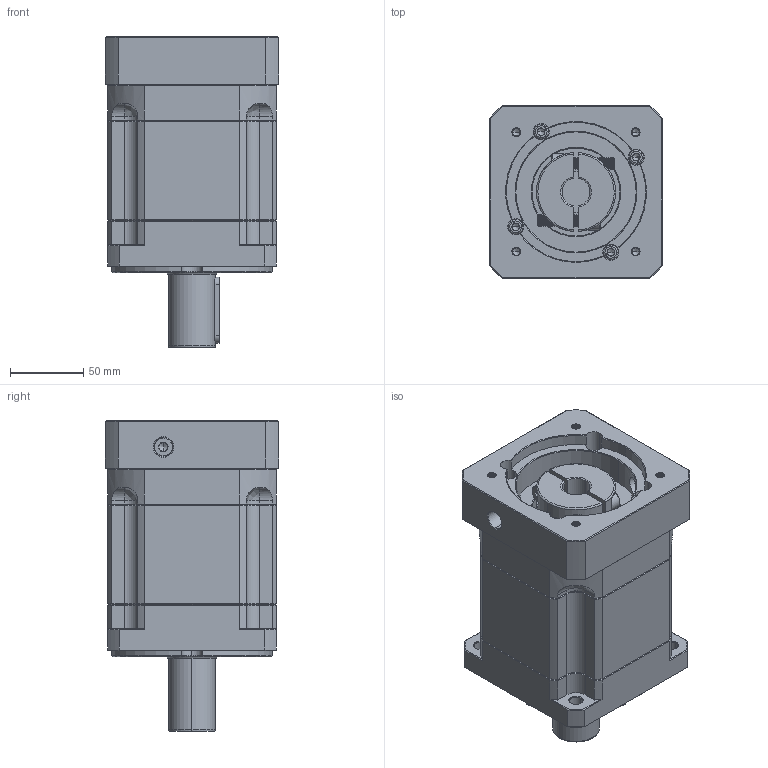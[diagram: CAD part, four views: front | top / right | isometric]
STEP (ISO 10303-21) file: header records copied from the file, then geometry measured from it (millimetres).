
FILE_DESCRIPTION (( 'STEP AP214' ), '1' );
FILE_NAME ('ZB115A-D32-L2-P2-19-95-115-M6.step', '2023-08-26T06:30:01', ( '' ), ( '' ), 'SwSTEP 2.0', 'SolidWorks 2016', '' );
FILE_SCHEMA (( 'AUTOMOTIVE_DESIGN' ));
Length unit declared in the file: millimetre
Products named in the file (1): ZB115A-D32-L2-P2-19-95-115-M6
Bounding box: 118 x 118 x 212 mm (x, y, z)
Volume: 1811544 mm3; surface area: 179022.7 mm2
Topology: 6 solids, 6 shells, 2383 faces, 6286 edges, 3999 vertices
Faces by surface type: plane 1144, bspline 443, cylinder 412, cone 384
Entity records: 126721 total; most frequent: CARTESIAN_POINT 45028, ORIENTED_EDGE 12504, DIRECTION 9949, EDGE_CURVE 6252, VERTEX_POINT 3999, VECTOR 3985, LINE 3985, AXIS2_PLACEMENT_3D 2982
